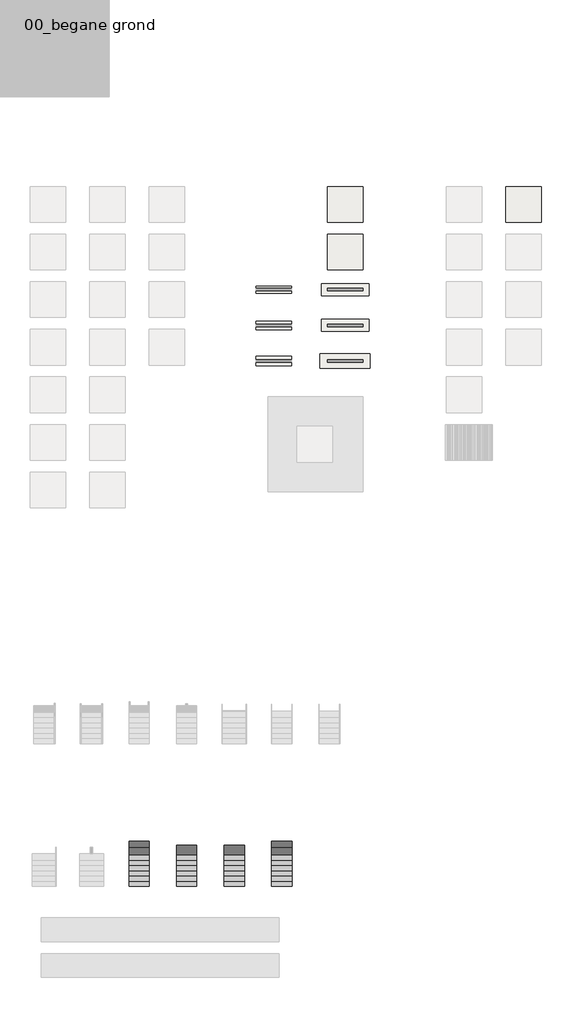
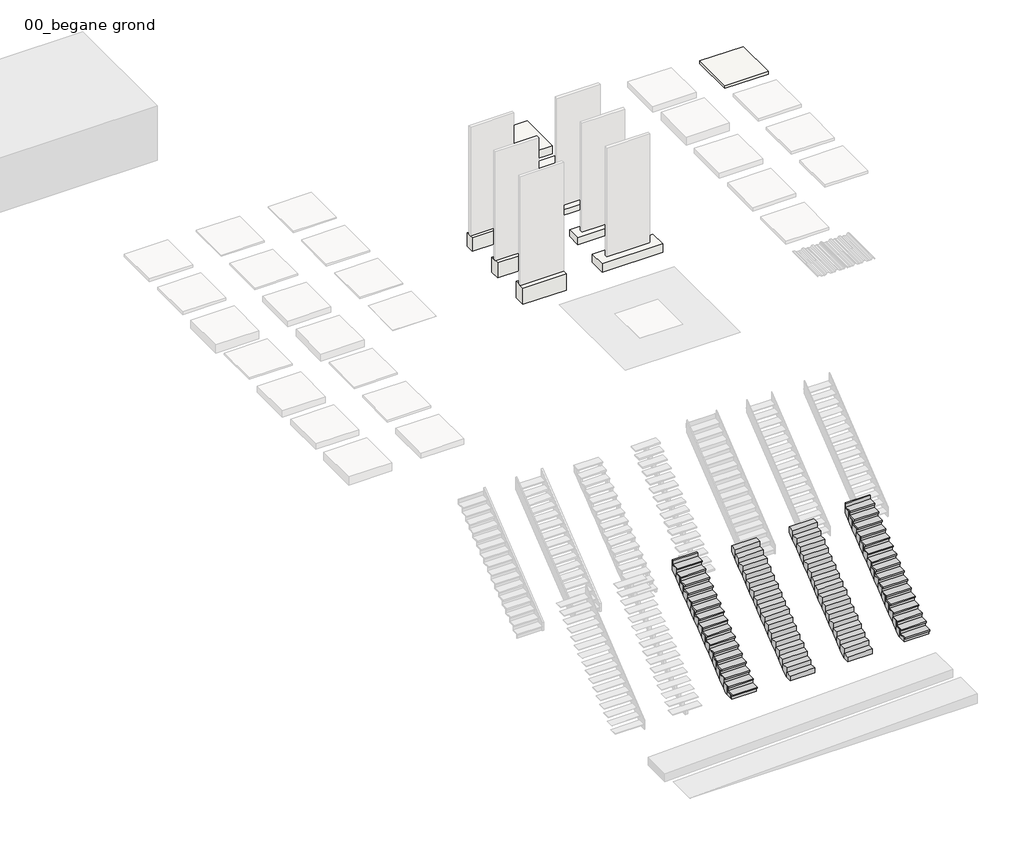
# One storey, part 2 of 3: 6 footings, 4 stair flights, 2 slabs, 1 roof.
"""IFC4 building model written with IfcOpenShell, lengths in millimetres."""

from ifc_helpers import new_model, si_unit, frame, origin, origin_with_axes, place, context, project, spatial, polyline, outline, extrude, faceted_brep, element, save

model = new_model("IFC4")

# Units and contexts
model_context = context("Model", 3, world=origin())
ifc_project = project(units=[si_unit("LENGTHUNIT", "METRE", prefix="MILLI")], contexts=[model_context])

# Site, building, storey
site = spatial("IfcSite", under=ifc_project)
building = spatial("IfcBuilding", under=site)
storey = spatial("IfcBuildingStorey", under=building, Name="00_begane grond", Elevation=0.0)

# Footings
placement = place(None, origin())
element("IfcFooting", 1, ObjectType="16_SFO_ihwg beton_C30-35_500x200", at=placement, inside=storey, context=model_context, shape_type="SweptSolid", body=[
    extrude(outline(polyline([(29439.8687149, -6498.9380074), (29439.8687149, -5998.9380074), (31439.8687149, -5998.9380074), (31439.8687149, -6498.9380074), (29439.8687149, -6498.9380074)])), frame((0.0, 0.0, -200.0), z_axis=(0.0, 0.0, 1.0), x_axis=(1.0, 0.0, 0.0)), (0.0, 0.0, 1.0), 200.0),
])
element("IfcFooting", 2, ObjectType="16_SFO_ihwg beton_C30-35_500x250", at=placement, inside=storey, context=model_context, shape_type="SweptSolid", body=[
    extrude(outline(polyline([(29439.8687149, -7998.9380074), (29439.8687149, -7498.9380074), (31439.8687149, -7498.9380074), (31439.8687149, -7998.9380074), (29439.8687149, -7998.9380074)])), frame((0.0, 0.0, -250.0), z_axis=(0.0, 0.0, 1.0), x_axis=(1.0, 0.0, 0.0)), (0.0, 0.0, 1.0), 250.0),
])
element("IfcFooting", 3, ObjectType="16_SFO_ihwg beton_C30-35_600x300", at=placement, inside=storey, context=model_context, shape_type="SweptSolid", body=[
    extrude(outline(polyline([(29389.8687149, -9548.9380074), (29389.8687149, -8948.9380074), (31489.8687149, -8948.9380074), (31489.8687149, -9548.9380074), (29389.8687149, -9548.9380074)])), frame((0.0, 0.0, -300.0), z_axis=(0.0, 0.0, 1.0), x_axis=(1.0, 0.0, 0.0)), (0.0, 0.0, 1.0), 300.0),
])
element("IfcFooting", 4, ObjectType="16_SFO_prefab beton_C35-45_300x500", at=placement, inside=storey, context=model_context, shape_type="SweptSolid", body=[
    extrude(outline(polyline([(26689.8687149, -6398.9380074), (26689.8687149, -6098.9380074), (28189.8687149, -6098.9380074), (28189.8687149, -6398.9380074), (26689.8687149, -6398.9380074)])), frame((0.0, 0.0, -500.0), z_axis=(0.0, 0.0, 1.0), x_axis=(1.0, 0.0, 0.0)), (0.0, 0.0, 1.0), 500.0),
])
element("IfcFooting", 5, ObjectType="16_SFO_prefab beton_C35-45_350x550", at=placement, inside=storey, context=model_context, shape_type="SweptSolid", body=[
    extrude(outline(polyline([(26689.8687149, -7923.9380074), (26689.8687149, -7573.9380074), (28189.8687149, -7573.9380074), (28189.8687149, -7923.9380074), (26689.8687149, -7923.9380074)])), frame((0.0, 0.0, -550.0), z_axis=(0.0, 0.0, 1.0), x_axis=(1.0, 0.0, 0.0)), (0.0, 0.0, 1.0), 550.0),
])
element("IfcFooting", 6, ObjectType="16_SFO_prefab beton_C35-45_400x600", at=placement, inside=storey, context=model_context, shape_type="SweptSolid", body=[
    extrude(outline(polyline([(26689.8687149, -9448.9380074), (26689.8687149, -9048.9380074), (28189.8687149, -9048.9380074), (28189.8687149, -9448.9380074), (26689.8687149, -9448.9380074)])), frame((0.0, 0.0, -600.0), z_axis=(0.0, 0.0, 1.0), x_axis=(1.0, 0.0, 0.0)), (0.0, 0.0, 1.0), 600.0),
])

# Roof
element("IfcRoof", 7, ObjectType="47_RO_isolatie_PIR_bitumen_82_80-2", at=placement, inside=storey, context=model_context, shape_type="SweptSolid", body=[
    extrude(outline(polyline([(37193.347385, -1915.0), (38693.347385, -1915.0), (38693.347385, -3415.0), (37193.347385, -3415.0), (37193.347385, -1915.0)])), origin_with_axes(), (0.0, 0.0, 1.0), 102.0),
])

# Slabs
element("IfcSlab", 8, ObjectType="16_SFO_funderingsplaat_beton_generiek_300", at=placement, inside=storey, context=model_context, shape_type="SweptSolid", body=[
    extrude(outline(polyline([(31193.347385, -1915.0), (31193.347385, -3415.0), (29693.347385, -3415.0), (29693.347385, -1915.0), (31193.347385, -1915.0)])), frame((0.0, 0.0, -300.0), z_axis=(0.0, 0.0, 1.0), x_axis=(1.0, 0.0, 0.0)), (0.0, 0.0, 1.0), 300.0),
])
element("IfcSlab", 9, ObjectType="16_SFO_funderingsplaat_ihwg_beton_C30/37", at=placement, inside=storey, context=model_context, shape_type="SweptSolid", body=[
    extrude(outline(polyline([(31193.347385, -3915.0), (31193.347385, -5415.0), (29693.347385, -5415.0), (29693.347385, -3915.0), (31193.347385, -3915.0)])), frame((0.0, 0.0, -300.0), z_axis=(0.0, 0.0, 1.0), x_axis=(1.0, 0.0, 0.0)), (0.0, 0.0, 1.0), 300.0),
])

# Stair flights
element("IfcStairFlight", 10, ObjectType="24_STR_trap_beton_prefab_monolithisch_recht", at=placement, inside=storey, context=model_context, shape_type="Brep", body=[
    faceted_brep([(23349.8089026, -31104.6322236, 176.4705882), (23349.8089026, -31324.6322236, 176.4705882), (24199.8089026, -31324.6322236, 176.4705882), (24199.8089026, -31104.6322236, 176.4705882), (23349.8089026, -31104.6322236, 0.0), (23349.8089026, -31324.6322236, 0.0), (24199.8089026, -31324.6322236, 0.0), (24199.8089026, -31104.6322236, 0.0), (23349.8089026, -30884.6322236, 352.9411765), (23349.8089026, -31104.6322236, 352.9411765), (24199.8089026, -31104.6322236, 352.9411765), (24199.8089026, -30884.6322236, 352.9411765), (23349.8089026, -30884.6322236, 160.6468492), (23349.8089026, -31084.9052956, 0.0), (24199.8089026, -31084.9052956, 0.0), (24199.8089026, -30884.6322236, 160.6468492), (23349.8089026, -30664.6322236, 529.4117647), (23349.8089026, -30884.6322236, 529.4117647), (24199.8089026, -30884.6322236, 529.4117647), (24199.8089026, -30664.6322236, 529.4117647), (23349.8089026, -30664.6322236, 337.1174374), (24199.8089026, -30664.6322236, 337.1174374), (23349.8089026, -30444.6322236, 705.8823529), (23349.8089026, -30664.6322236, 705.8823529), (24199.8089026, -30664.6322236, 705.8823529), (24199.8089026, -30444.6322236, 705.8823529), (23349.8089026, -30444.6322236, 513.5880257), (24199.8089026, -30444.6322236, 513.5880257), (23349.8089026, -30224.6322236, 882.3529412), (23349.8089026, -30444.6322236, 882.3529412), (24199.8089026, -30444.6322236, 882.3529412), (24199.8089026, -30224.6322236, 882.3529412), (23349.8089026, -30224.6322236, 690.0586139), (24199.8089026, -30224.6322236, 690.0586139), (23349.8089026, -30004.6322236, 1058.8235294), (23349.8089026, -30224.6322236, 1058.8235294), (24199.8089026, -30224.6322236, 1058.8235294), (24199.8089026, -30004.6322236, 1058.8235294), (23349.8089026, -30004.6322236, 866.5292022), (24199.8089026, -30004.6322236, 866.5292022), (23349.8089026, -29784.6322236, 1235.2941176), (23349.8089026, -30004.6322236, 1235.2941176), (24199.8089026, -30004.6322236, 1235.2941176), (24199.8089026, -29784.6322236, 1235.2941176), (23349.8089026, -29784.6322236, 1042.9997904), (24199.8089026, -29784.6322236, 1042.9997904), (23349.8089026, -29564.6322236, 1411.7647059), (23349.8089026, -29784.6322236, 1411.7647059), (24199.8089026, -29784.6322236, 1411.7647059), (24199.8089026, -29564.6322236, 1411.7647059), (23349.8089026, -29564.6322236, 1219.4703786), (24199.8089026, -29564.6322236, 1219.4703786), (23349.8089026, -29344.6322236, 1588.2352941), (23349.8089026, -29564.6322236, 1588.2352941), (24199.8089026, -29564.6322236, 1588.2352941), (24199.8089026, -29344.6322236, 1588.2352941), (23349.8089026, -29344.6322236, 1395.9409669), (24199.8089026, -29344.6322236, 1395.9409669), (23349.8089026, -29124.6322236, 1764.7058824), (23349.8089026, -29344.6322236, 1764.7058824), (24199.8089026, -29344.6322236, 1764.7058824), (24199.8089026, -29124.6322236, 1764.7058824), (23349.8089026, -29124.6322236, 1572.4115551), (24199.8089026, -29124.6322236, 1572.4115551), (23349.8089026, -28904.6322236, 1941.1764706), (23349.8089026, -29124.6322236, 1941.1764706), (24199.8089026, -29124.6322236, 1941.1764706), (24199.8089026, -28904.6322236, 1941.1764706), (23349.8089026, -28904.6322236, 1748.8821433), (24199.8089026, -28904.6322236, 1748.8821433), (23349.8089026, -28684.6322236, 2117.6470588), (23349.8089026, -28904.6322236, 2117.6470588), (24199.8089026, -28904.6322236, 2117.6470588), (24199.8089026, -28684.6322236, 2117.6470588), (23349.8089026, -28684.6322236, 1925.3527316), (24199.8089026, -28684.6322236, 1925.3527316), (23349.8089026, -28464.6322236, 2294.1176471), (23349.8089026, -28684.6322236, 2294.1176471), (24199.8089026, -28684.6322236, 2294.1176471), (24199.8089026, -28464.6322236, 2294.1176471), (23349.8089026, -28464.6322236, 2101.8233198), (24199.8089026, -28464.6322236, 2101.8233198), (23349.8089026, -28244.6322236, 2470.5882353), (23349.8089026, -28464.6322236, 2470.5882353), (24199.8089026, -28464.6322236, 2470.5882353), (24199.8089026, -28244.6322236, 2470.5882353), (23349.8089026, -28244.6322236, 2278.293908), (24199.8089026, -28244.6322236, 2278.293908), (23349.8089026, -28024.6322236, 2647.0588235), (23349.8089026, -28244.6322236, 2647.0588235), (24199.8089026, -28244.6322236, 2647.0588235), (24199.8089026, -28024.6322236, 2647.0588235), (23349.8089026, -28024.6322236, 2454.7644963), (24199.8089026, -28024.6322236, 2454.7644963), (23349.8089026, -27804.6322236, 2823.5294118), (23349.8089026, -28024.6322236, 2823.5294118), (24199.8089026, -28024.6322236, 2823.5294118), (24199.8089026, -27804.6322236, 2823.5294118), (23349.8089026, -27804.6322236, 2631.2350845), (24199.8089026, -27804.6322236, 2631.2350845)], [[[0, 1, 2, 3]], [[1, 0, 4, 5]], [[2, 1, 5, 6]], [[3, 2, 6, 7]], [[8, 9, 10, 11]], [[4, 0, 9, 8, 12, 13]], [[0, 3, 10, 9]], [[3, 7, 14, 15, 11, 10]], [[16, 17, 18, 19]], [[17, 16, 20, 12, 8]], [[8, 11, 18, 17]], [[19, 18, 11, 15, 21]], [[22, 23, 24, 25]], [[23, 22, 26, 20, 16]], [[16, 19, 24, 23]], [[25, 24, 19, 21, 27]], [[28, 29, 30, 31]], [[29, 28, 32, 26, 22]], [[22, 25, 30, 29]], [[31, 30, 25, 27, 33]], [[34, 35, 36, 37]], [[35, 34, 38, 32, 28]], [[28, 31, 36, 35]], [[37, 36, 31, 33, 39]], [[40, 41, 42, 43]], [[41, 40, 44, 38, 34]], [[34, 37, 42, 41]], [[43, 42, 37, 39, 45]], [[46, 47, 48, 49]], [[47, 46, 50, 44, 40]], [[40, 43, 48, 47]], [[49, 48, 43, 45, 51]], [[52, 53, 54, 55]], [[53, 52, 56, 50, 46]], [[46, 49, 54, 53]], [[55, 54, 49, 51, 57]], [[58, 59, 60, 61]], [[59, 58, 62, 56, 52]], [[52, 55, 60, 59]], [[61, 60, 55, 57, 63]], [[64, 65, 66, 67]], [[65, 64, 68, 62, 58]], [[58, 61, 66, 65]], [[67, 66, 61, 63, 69]], [[70, 71, 72, 73]], [[71, 70, 74, 68, 64]], [[64, 67, 72, 71]], [[73, 72, 67, 69, 75]], [[76, 77, 78, 79]], [[77, 76, 80, 74, 70]], [[70, 73, 78, 77]], [[79, 78, 73, 75, 81]], [[82, 83, 84, 85]], [[83, 82, 86, 80, 76]], [[76, 79, 84, 83]], [[85, 84, 79, 81, 87]], [[88, 89, 90, 91]], [[89, 88, 92, 86, 82]], [[82, 85, 90, 89]], [[91, 90, 85, 87, 93]], [[94, 95, 96, 97]], [[95, 94, 98, 92, 88]], [[88, 91, 96, 95]], [[97, 96, 91, 93, 99]], [[94, 97, 99, 98]], [[5, 4, 13, 14, 7, 6]], [[14, 13, 12, 20, 26, 32, 38, 44, 50, 56, 62, 68, 74, 80, 86, 92, 98, 99, 93, 87, 81, 75, 69, 63, 57, 51, 45, 39, 33, 27, 21, 15]]]),
])
element("IfcStairFlight", 11, ObjectType="24_STR_trap_beton_prefab_monolithisch_recht", at=placement, inside=storey, context=model_context, shape_type="Brep", body=[
    faceted_brep([(25349.8089026, -31104.6322236, 176.4705882), (25349.8089026, -31324.6322236, 176.4705882), (26199.8089026, -31324.6322236, 176.4705882), (26199.8089026, -31104.6322236, 176.4705882), (25349.8089026, -31104.6322236, 0.0), (25349.8089026, -31324.6322236, 0.0), (26199.8089026, -31324.6322236, 0.0), (26199.8089026, -31104.6322236, 0.0), (25349.8089026, -30884.6322236, 352.9411765), (25349.8089026, -31104.6322236, 352.9411765), (26199.8089026, -31104.6322236, 352.9411765), (26199.8089026, -30884.6322236, 352.9411765), (25349.8089026, -30884.6322236, 160.6468492), (25349.8089026, -31084.9052956, 0.0), (26199.8089026, -31084.9052956, 0.0), (26199.8089026, -30884.6322236, 160.6468492), (25349.8089026, -30664.6322236, 529.4117647), (25349.8089026, -30884.6322236, 529.4117647), (26199.8089026, -30884.6322236, 529.4117647), (26199.8089026, -30664.6322236, 529.4117647), (25349.8089026, -30664.6322236, 337.1174374), (26199.8089026, -30664.6322236, 337.1174374), (25349.8089026, -30444.6322236, 705.8823529), (25349.8089026, -30664.6322236, 705.8823529), (26199.8089026, -30664.6322236, 705.8823529), (26199.8089026, -30444.6322236, 705.8823529), (25349.8089026, -30444.6322236, 513.5880257), (26199.8089026, -30444.6322236, 513.5880257), (25349.8089026, -30224.6322236, 882.3529412), (25349.8089026, -30444.6322236, 882.3529412), (26199.8089026, -30444.6322236, 882.3529412), (26199.8089026, -30224.6322236, 882.3529412), (25349.8089026, -30224.6322236, 690.0586139), (26199.8089026, -30224.6322236, 690.0586139), (25349.8089026, -30004.6322236, 1058.8235294), (25349.8089026, -30224.6322236, 1058.8235294), (26199.8089026, -30224.6322236, 1058.8235294), (26199.8089026, -30004.6322236, 1058.8235294), (25349.8089026, -30004.6322236, 866.5292022), (26199.8089026, -30004.6322236, 866.5292022), (25349.8089026, -29784.6322236, 1235.2941176), (25349.8089026, -30004.6322236, 1235.2941176), (26199.8089026, -30004.6322236, 1235.2941176), (26199.8089026, -29784.6322236, 1235.2941176), (25349.8089026, -29784.6322236, 1042.9997904), (26199.8089026, -29784.6322236, 1042.9997904), (25349.8089026, -29564.6322236, 1411.7647059), (25349.8089026, -29784.6322236, 1411.7647059), (26199.8089026, -29784.6322236, 1411.7647059), (26199.8089026, -29564.6322236, 1411.7647059), (25349.8089026, -29564.6322236, 1219.4703786), (26199.8089026, -29564.6322236, 1219.4703786), (25349.8089026, -29344.6322236, 1588.2352941), (25349.8089026, -29564.6322236, 1588.2352941), (26199.8089026, -29564.6322236, 1588.2352941), (26199.8089026, -29344.6322236, 1588.2352941), (25349.8089026, -29344.6322236, 1395.9409669), (26199.8089026, -29344.6322236, 1395.9409669), (25349.8089026, -29124.6322236, 1764.7058824), (25349.8089026, -29344.6322236, 1764.7058824), (26199.8089026, -29344.6322236, 1764.7058824), (26199.8089026, -29124.6322236, 1764.7058824), (25349.8089026, -29124.6322236, 1572.4115551), (26199.8089026, -29124.6322236, 1572.4115551), (25349.8089026, -28904.6322236, 1941.1764706), (25349.8089026, -29124.6322236, 1941.1764706), (26199.8089026, -29124.6322236, 1941.1764706), (26199.8089026, -28904.6322236, 1941.1764706), (25349.8089026, -28904.6322236, 1748.8821433), (26199.8089026, -28904.6322236, 1748.8821433), (25349.8089026, -28684.6322236, 2117.6470588), (25349.8089026, -28904.6322236, 2117.6470588), (26199.8089026, -28904.6322236, 2117.6470588), (26199.8089026, -28684.6322236, 2117.6470588), (25349.8089026, -28684.6322236, 1925.3527316), (26199.8089026, -28684.6322236, 1925.3527316), (25349.8089026, -28464.6322236, 2294.1176471), (25349.8089026, -28684.6322236, 2294.1176471), (26199.8089026, -28684.6322236, 2294.1176471), (26199.8089026, -28464.6322236, 2294.1176471), (25349.8089026, -28464.6322236, 2101.8233198), (26199.8089026, -28464.6322236, 2101.8233198), (25349.8089026, -28244.6322236, 2470.5882353), (25349.8089026, -28464.6322236, 2470.5882353), (26199.8089026, -28464.6322236, 2470.5882353), (26199.8089026, -28244.6322236, 2470.5882353), (25349.8089026, -28244.6322236, 2278.293908), (26199.8089026, -28244.6322236, 2278.293908), (25349.8089026, -28024.6322236, 2647.0588235), (25349.8089026, -28244.6322236, 2647.0588235), (26199.8089026, -28244.6322236, 2647.0588235), (26199.8089026, -28024.6322236, 2647.0588235), (25349.8089026, -28024.6322236, 2454.7644963), (26199.8089026, -28024.6322236, 2454.7644963), (25349.8089026, -27804.6322236, 2823.5294118), (25349.8089026, -28024.6322236, 2823.5294118), (26199.8089026, -28024.6322236, 2823.5294118), (26199.8089026, -27804.6322236, 2823.5294118), (25349.8089026, -27804.6322236, 2631.2350845), (26199.8089026, -27804.6322236, 2631.2350845)], [[[0, 1, 2, 3]], [[1, 0, 4, 5]], [[2, 1, 5, 6]], [[3, 2, 6, 7]], [[8, 9, 10, 11]], [[4, 0, 9, 8, 12, 13]], [[0, 3, 10, 9]], [[3, 7, 14, 15, 11, 10]], [[16, 17, 18, 19]], [[17, 16, 20, 12, 8]], [[8, 11, 18, 17]], [[19, 18, 11, 15, 21]], [[22, 23, 24, 25]], [[23, 22, 26, 20, 16]], [[16, 19, 24, 23]], [[25, 24, 19, 21, 27]], [[28, 29, 30, 31]], [[29, 28, 32, 26, 22]], [[22, 25, 30, 29]], [[31, 30, 25, 27, 33]], [[34, 35, 36, 37]], [[35, 34, 38, 32, 28]], [[28, 31, 36, 35]], [[37, 36, 31, 33, 39]], [[40, 41, 42, 43]], [[41, 40, 44, 38, 34]], [[34, 37, 42, 41]], [[43, 42, 37, 39, 45]], [[46, 47, 48, 49]], [[47, 46, 50, 44, 40]], [[40, 43, 48, 47]], [[49, 48, 43, 45, 51]], [[52, 53, 54, 55]], [[53, 52, 56, 50, 46]], [[46, 49, 54, 53]], [[55, 54, 49, 51, 57]], [[58, 59, 60, 61]], [[59, 58, 62, 56, 52]], [[52, 55, 60, 59]], [[61, 60, 55, 57, 63]], [[64, 65, 66, 67]], [[65, 64, 68, 62, 58]], [[58, 61, 66, 65]], [[67, 66, 61, 63, 69]], [[70, 71, 72, 73]], [[71, 70, 74, 68, 64]], [[64, 67, 72, 71]], [[73, 72, 67, 69, 75]], [[76, 77, 78, 79]], [[77, 76, 80, 74, 70]], [[70, 73, 78, 77]], [[79, 78, 73, 75, 81]], [[82, 83, 84, 85]], [[83, 82, 86, 80, 76]], [[76, 79, 84, 83]], [[85, 84, 79, 81, 87]], [[88, 89, 90, 91]], [[89, 88, 92, 86, 82]], [[82, 85, 90, 89]], [[91, 90, 85, 87, 93]], [[94, 95, 96, 97]], [[95, 94, 98, 92, 88]], [[88, 91, 96, 95]], [[97, 96, 91, 93, 99]], [[94, 97, 99, 98]], [[5, 4, 13, 14, 7, 6]], [[14, 13, 12, 20, 26, 32, 38, 44, 50, 56, 62, 68, 74, 80, 86, 92, 98, 99, 93, 87, 81, 75, 69, 63, 57, 51, 45, 39, 33, 27, 21, 15]]]),
])
element("IfcStairFlight", 12, ObjectType="24_STR_trap_beton_prefab_50_50_50", at=placement, inside=storey, context=model_context, shape_type="SolidModel", body=[
    faceted_brep([(21349.8089026, -31004.6322236, 126.4705882), (21349.8089026, -31224.6322236, 126.4705882), (22199.8089026, -31224.6322236, 126.4705882), (22199.8089026, -31004.6322236, 126.4705882), (21349.8089026, -31004.6322236, 0.0), (21349.8089026, -31224.6322236, 0.0), (22199.8089026, -31224.6322236, 0.0), (22199.8089026, -31004.6322236, 0.0), (21349.8089026, -30784.6322236, 302.9411765), (21349.8089026, -31004.6322236, 302.9411765), (22199.8089026, -31004.6322236, 302.9411765), (22199.8089026, -30784.6322236, 302.9411765), (21349.8089026, -30784.6322236, 110.6468492), (21349.8089026, -30922.5719622, 0.0), (22199.8089026, -30922.5719622, 0.0), (22199.8089026, -30784.6322236, 110.6468492), (21349.8089026, -30564.6322236, 479.4117647), (21349.8089026, -30784.6322236, 479.4117647), (22199.8089026, -30784.6322236, 479.4117647), (22199.8089026, -30564.6322236, 479.4117647), (21349.8089026, -30564.6322236, 287.1174374), (22199.8089026, -30564.6322236, 287.1174374), (21349.8089026, -30344.6322236, 655.8823529), (21349.8089026, -30564.6322236, 655.8823529), (22199.8089026, -30564.6322236, 655.8823529), (22199.8089026, -30344.6322236, 655.8823529), (21349.8089026, -30344.6322236, 463.5880257), (22199.8089026, -30344.6322236, 463.5880257), (21349.8089026, -30124.6322236, 832.3529412), (21349.8089026, -30344.6322236, 832.3529412), (22199.8089026, -30344.6322236, 832.3529412), (22199.8089026, -30124.6322236, 832.3529412), (21349.8089026, -30124.6322236, 640.0586139), (22199.8089026, -30124.6322236, 640.0586139), (21349.8089026, -29904.6322236, 1008.8235294), (21349.8089026, -30124.6322236, 1008.8235294), (22199.8089026, -30124.6322236, 1008.8235294), (22199.8089026, -29904.6322236, 1008.8235294), (21349.8089026, -29904.6322236, 816.5292022), (22199.8089026, -29904.6322236, 816.5292022), (21349.8089026, -29684.6322236, 1185.2941176), (21349.8089026, -29904.6322236, 1185.2941176), (22199.8089026, -29904.6322236, 1185.2941176), (22199.8089026, -29684.6322236, 1185.2941176), (21349.8089026, -29684.6322236, 992.9997904), (22199.8089026, -29684.6322236, 992.9997904), (21349.8089026, -29464.6322236, 1361.7647059), (21349.8089026, -29684.6322236, 1361.7647059), (22199.8089026, -29684.6322236, 1361.7647059), (22199.8089026, -29464.6322236, 1361.7647059), (21349.8089026, -29464.6322236, 1169.4703786), (22199.8089026, -29464.6322236, 1169.4703786), (21349.8089026, -29244.6322236, 1538.2352941), (21349.8089026, -29464.6322236, 1538.2352941), (22199.8089026, -29464.6322236, 1538.2352941), (22199.8089026, -29244.6322236, 1538.2352941), (21349.8089026, -29244.6322236, 1345.9409669), (22199.8089026, -29244.6322236, 1345.9409669), (21349.8089026, -29024.6322236, 1714.7058824), (21349.8089026, -29244.6322236, 1714.7058824), (22199.8089026, -29244.6322236, 1714.7058824), (22199.8089026, -29024.6322236, 1714.7058824), (21349.8089026, -29024.6322236, 1522.4115551), (22199.8089026, -29024.6322236, 1522.4115551), (21349.8089026, -28804.6322236, 1891.1764706), (21349.8089026, -29024.6322236, 1891.1764706), (22199.8089026, -29024.6322236, 1891.1764706), (22199.8089026, -28804.6322236, 1891.1764706), (21349.8089026, -28804.6322236, 1698.8821433), (22199.8089026, -28804.6322236, 1698.8821433), (21349.8089026, -28584.6322236, 2067.6470588), (21349.8089026, -28804.6322236, 2067.6470588), (22199.8089026, -28804.6322236, 2067.6470588), (22199.8089026, -28584.6322236, 2067.6470588), (21349.8089026, -28584.6322236, 1875.3527316), (22199.8089026, -28584.6322236, 1875.3527316), (21349.8089026, -28364.6322236, 2244.1176471), (21349.8089026, -28584.6322236, 2244.1176471), (22199.8089026, -28584.6322236, 2244.1176471), (22199.8089026, -28364.6322236, 2244.1176471), (21349.8089026, -28364.6322236, 2051.8233198), (22199.8089026, -28364.6322236, 2051.8233198), (21349.8089026, -28144.6322236, 2420.5882353), (21349.8089026, -28364.6322236, 2420.5882353), (22199.8089026, -28364.6322236, 2420.5882353), (22199.8089026, -28144.6322236, 2420.5882353), (21349.8089026, -28144.6322236, 2228.293908), (22199.8089026, -28144.6322236, 2228.293908), (21349.8089026, -27924.6322236, 2597.0588235), (21349.8089026, -28144.6322236, 2597.0588235), (22199.8089026, -28144.6322236, 2597.0588235), (22199.8089026, -27924.6322236, 2597.0588235), (21349.8089026, -27924.6322236, 2404.7644963), (22199.8089026, -27924.6322236, 2404.7644963), (21349.8089026, -27704.6322236, 2773.5294118), (21349.8089026, -27924.6322236, 2773.5294118), (22199.8089026, -27924.6322236, 2773.5294118), (22199.8089026, -27704.6322236, 2773.5294118), (21349.8089026, -27704.6322236, 2581.2350845), (22199.8089026, -27704.6322236, 2581.2350845)], [[[0, 1, 2, 3]], [[1, 0, 4, 5]], [[2, 1, 5, 6]], [[3, 2, 6, 7]], [[8, 9, 10, 11]], [[4, 0, 9, 8, 12, 13]], [[0, 3, 10, 9]], [[3, 7, 14, 15, 11, 10]], [[16, 17, 18, 19]], [[17, 16, 20, 12, 8]], [[8, 11, 18, 17]], [[19, 18, 11, 15, 21]], [[22, 23, 24, 25]], [[23, 22, 26, 20, 16]], [[16, 19, 24, 23]], [[25, 24, 19, 21, 27]], [[28, 29, 30, 31]], [[29, 28, 32, 26, 22]], [[22, 25, 30, 29]], [[31, 30, 25, 27, 33]], [[34, 35, 36, 37]], [[35, 34, 38, 32, 28]], [[28, 31, 36, 35]], [[37, 36, 31, 33, 39]], [[40, 41, 42, 43]], [[41, 40, 44, 38, 34]], [[34, 37, 42, 41]], [[43, 42, 37, 39, 45]], [[46, 47, 48, 49]], [[47, 46, 50, 44, 40]], [[40, 43, 48, 47]], [[49, 48, 43, 45, 51]], [[52, 53, 54, 55]], [[53, 52, 56, 50, 46]], [[46, 49, 54, 53]], [[55, 54, 49, 51, 57]], [[58, 59, 60, 61]], [[59, 58, 62, 56, 52]], [[52, 55, 60, 59]], [[61, 60, 55, 57, 63]], [[64, 65, 66, 67]], [[65, 64, 68, 62, 58]], [[58, 61, 66, 65]], [[67, 66, 61, 63, 69]], [[70, 71, 72, 73]], [[71, 70, 74, 68, 64]], [[64, 67, 72, 71]], [[73, 72, 67, 69, 75]], [[76, 77, 78, 79]], [[77, 76, 80, 74, 70]], [[70, 73, 78, 77]], [[79, 78, 73, 75, 81]], [[82, 83, 84, 85]], [[83, 82, 86, 80, 76]], [[76, 79, 84, 83]], [[85, 84, 79, 81, 87]], [[88, 89, 90, 91]], [[89, 88, 92, 86, 82]], [[82, 85, 90, 89]], [[91, 90, 85, 87, 93]], [[94, 95, 96, 97]], [[95, 94, 98, 92, 88]], [[88, 91, 96, 95]], [[97, 96, 91, 93, 99]], [[94, 97, 99, 98]], [[5, 4, 13, 14, 7, 6]], [[14, 13, 12, 20, 26, 32, 38, 44, 50, 56, 62, 68, 74, 80, 86, 92, 98, 99, 93, 87, 81, 75, 69, 63, 57, 51, 45, 39, 33, 27, 21, 15]]]),
    extrude(outline(polyline([(-31274.6322236, 0.0), (-31274.6322236, 126.4705882), (-31324.6322236, 126.4705882), (-31324.6322236, 176.4705882), (-31054.6322236, 176.4705882), (-31054.6322236, 302.9411765), (-31104.6322236, 302.9411765), (-31104.6322236, 352.9411765), (-30834.6322236, 352.9411765), (-30834.6322236, 479.4117647), (-30884.6322236, 479.4117647), (-30884.6322236, 529.4117647), (-30614.6322236, 529.4117647), (-30614.6322236, 655.8823529), (-30664.6322236, 655.8823529), (-30664.6322236, 705.8823529), (-30394.6322236, 705.8823529), (-30394.6322236, 832.3529412), (-30444.6322236, 832.3529412), (-30444.6322236, 882.3529412), (-30174.6322236, 882.3529412), (-30174.6322236, 1008.8235294), (-30224.6322236, 1008.8235294), (-30224.6322236, 1058.8235294), (-29954.6322236, 1058.8235294), (-29954.6322236, 1185.2941176), (-30004.6322236, 1185.2941176), (-30004.6322236, 1235.2941176), (-29734.6322236, 1235.2941176), (-29734.6322236, 1361.7647059), (-29784.6322236, 1361.7647059), (-29784.6322236, 1411.7647059), (-29514.6322236, 1411.7647059), (-29514.6322236, 1538.2352941), (-29564.6322236, 1538.2352941), (-29564.6322236, 1588.2352941), (-29294.6322236, 1588.2352941), (-29294.6322236, 1714.7058824), (-29344.6322236, 1714.7058824), (-29344.6322236, 1764.7058824), (-29074.6322236, 1764.7058824), (-29074.6322236, 1891.1764706), (-29124.6322236, 1891.1764706), (-29124.6322236, 1941.1764706), (-28854.6322236, 1941.1764706), (-28854.6322236, 2067.6470588), (-28904.6322236, 2067.6470588), (-28904.6322236, 2117.6470588), (-28634.6322236, 2117.6470588), (-28634.6322236, 2244.1176471), (-28684.6322236, 2244.1176471), (-28684.6322236, 2294.1176471), (-28414.6322236, 2294.1176471), (-28414.6322236, 2420.5882353), (-28464.6322236, 2420.5882353), (-28464.6322236, 2470.5882353), (-28194.6322236, 2470.5882353), (-28194.6322236, 2597.0588235), (-28244.6322236, 2597.0588235), (-28244.6322236, 2647.0588235), (-27974.6322236, 2647.0588235), (-27974.6322236, 2773.5294118), (-28024.6322236, 2773.5294118), (-28024.6322236, 2823.5294118), (-27754.6322236, 2823.5294118), (-27754.6322236, 2950.0), (-27704.6322236, 2950.0), (-27704.6322236, 2773.5294118), (-27924.6322236, 2773.5294118), (-27924.6322236, 2597.0588235), (-28144.6322236, 2597.0588235), (-28144.6322236, 2420.5882353), (-28364.6322236, 2420.5882353), (-28364.6322236, 2244.1176471), (-28584.6322236, 2244.1176471), (-28584.6322236, 2067.6470588), (-28804.6322236, 2067.6470588), (-28804.6322236, 1891.1764706), (-29024.6322236, 1891.1764706), (-29024.6322236, 1714.7058824), (-29244.6322236, 1714.7058824), (-29244.6322236, 1538.2352941), (-29464.6322236, 1538.2352941), (-29464.6322236, 1361.7647059), (-29684.6322236, 1361.7647059), (-29684.6322236, 1185.2941176), (-29904.6322236, 1185.2941176), (-29904.6322236, 1008.8235294), (-30124.6322236, 1008.8235294), (-30124.6322236, 832.3529412), (-30344.6322236, 832.3529412), (-30344.6322236, 655.8823529), (-30564.6322236, 655.8823529), (-30564.6322236, 479.4117647), (-30784.6322236, 479.4117647), (-30784.6322236, 302.9411765), (-31004.6322236, 302.9411765), (-31004.6322236, 126.4705882), (-31224.6322236, 126.4705882), (-31224.6322236, 0.0), (-31274.6322236, 0.0)])), frame((21349.8089026, 0.0, 0.0), z_axis=(1.0, 0.0, 0.0), x_axis=(0.0, 1.0, 0.0)), (0.0, 0.0, 1.0), 850.0),
])
element("IfcStairFlight", 13, ObjectType="24_STR_trap_beton_prefab_50_50_50", at=placement, inside=storey, context=model_context, shape_type="SolidModel", body=[
    faceted_brep([(27349.8089026, -31004.6322236, 126.4705882), (27349.8089026, -31224.6322236, 126.4705882), (28199.8089026, -31224.6322236, 126.4705882), (28199.8089026, -31004.6322236, 126.4705882), (27349.8089026, -31004.6322236, 0.0), (27349.8089026, -31224.6322236, 0.0), (28199.8089026, -31224.6322236, 0.0), (28199.8089026, -31004.6322236, 0.0), (27349.8089026, -30784.6322236, 302.9411765), (27349.8089026, -31004.6322236, 302.9411765), (28199.8089026, -31004.6322236, 302.9411765), (28199.8089026, -30784.6322236, 302.9411765), (27349.8089026, -30784.6322236, 110.6468492), (27349.8089026, -30922.5719622, 0.0), (28199.8089026, -30922.5719622, 0.0), (28199.8089026, -30784.6322236, 110.6468492), (27349.8089026, -30564.6322236, 479.4117647), (27349.8089026, -30784.6322236, 479.4117647), (28199.8089026, -30784.6322236, 479.4117647), (28199.8089026, -30564.6322236, 479.4117647), (27349.8089026, -30564.6322236, 287.1174374), (28199.8089026, -30564.6322236, 287.1174374), (27349.8089026, -30344.6322236, 655.8823529), (27349.8089026, -30564.6322236, 655.8823529), (28199.8089026, -30564.6322236, 655.8823529), (28199.8089026, -30344.6322236, 655.8823529), (27349.8089026, -30344.6322236, 463.5880257), (28199.8089026, -30344.6322236, 463.5880257), (27349.8089026, -30124.6322236, 832.3529412), (27349.8089026, -30344.6322236, 832.3529412), (28199.8089026, -30344.6322236, 832.3529412), (28199.8089026, -30124.6322236, 832.3529412), (27349.8089026, -30124.6322236, 640.0586139), (28199.8089026, -30124.6322236, 640.0586139), (27349.8089026, -29904.6322236, 1008.8235294), (27349.8089026, -30124.6322236, 1008.8235294), (28199.8089026, -30124.6322236, 1008.8235294), (28199.8089026, -29904.6322236, 1008.8235294), (27349.8089026, -29904.6322236, 816.5292022), (28199.8089026, -29904.6322236, 816.5292022), (27349.8089026, -29684.6322236, 1185.2941176), (27349.8089026, -29904.6322236, 1185.2941176), (28199.8089026, -29904.6322236, 1185.2941176), (28199.8089026, -29684.6322236, 1185.2941176), (27349.8089026, -29684.6322236, 992.9997904), (28199.8089026, -29684.6322236, 992.9997904), (27349.8089026, -29464.6322236, 1361.7647059), (27349.8089026, -29684.6322236, 1361.7647059), (28199.8089026, -29684.6322236, 1361.7647059), (28199.8089026, -29464.6322236, 1361.7647059), (27349.8089026, -29464.6322236, 1169.4703786), (28199.8089026, -29464.6322236, 1169.4703786), (27349.8089026, -29244.6322236, 1538.2352941), (27349.8089026, -29464.6322236, 1538.2352941), (28199.8089026, -29464.6322236, 1538.2352941), (28199.8089026, -29244.6322236, 1538.2352941), (27349.8089026, -29244.6322236, 1345.9409669), (28199.8089026, -29244.6322236, 1345.9409669), (27349.8089026, -29024.6322236, 1714.7058824), (27349.8089026, -29244.6322236, 1714.7058824), (28199.8089026, -29244.6322236, 1714.7058824), (28199.8089026, -29024.6322236, 1714.7058824), (27349.8089026, -29024.6322236, 1522.4115551), (28199.8089026, -29024.6322236, 1522.4115551), (27349.8089026, -28804.6322236, 1891.1764706), (27349.8089026, -29024.6322236, 1891.1764706), (28199.8089026, -29024.6322236, 1891.1764706), (28199.8089026, -28804.6322236, 1891.1764706), (27349.8089026, -28804.6322236, 1698.8821433), (28199.8089026, -28804.6322236, 1698.8821433), (27349.8089026, -28584.6322236, 2067.6470588), (27349.8089026, -28804.6322236, 2067.6470588), (28199.8089026, -28804.6322236, 2067.6470588), (28199.8089026, -28584.6322236, 2067.6470588), (27349.8089026, -28584.6322236, 1875.3527316), (28199.8089026, -28584.6322236, 1875.3527316), (27349.8089026, -28364.6322236, 2244.1176471), (27349.8089026, -28584.6322236, 2244.1176471), (28199.8089026, -28584.6322236, 2244.1176471), (28199.8089026, -28364.6322236, 2244.1176471), (27349.8089026, -28364.6322236, 2051.8233198), (28199.8089026, -28364.6322236, 2051.8233198), (27349.8089026, -28144.6322236, 2420.5882353), (27349.8089026, -28364.6322236, 2420.5882353), (28199.8089026, -28364.6322236, 2420.5882353), (28199.8089026, -28144.6322236, 2420.5882353), (27349.8089026, -28144.6322236, 2228.293908), (28199.8089026, -28144.6322236, 2228.293908), (27349.8089026, -27924.6322236, 2597.0588235), (27349.8089026, -28144.6322236, 2597.0588235), (28199.8089026, -28144.6322236, 2597.0588235), (28199.8089026, -27924.6322236, 2597.0588235), (27349.8089026, -27924.6322236, 2404.7644963), (28199.8089026, -27924.6322236, 2404.7644963), (27349.8089026, -27704.6322236, 2773.5294118), (27349.8089026, -27924.6322236, 2773.5294118), (28199.8089026, -27924.6322236, 2773.5294118), (28199.8089026, -27704.6322236, 2773.5294118), (27349.8089026, -27704.6322236, 2581.2350845), (28199.8089026, -27704.6322236, 2581.2350845)], [[[0, 1, 2, 3]], [[1, 0, 4, 5]], [[2, 1, 5, 6]], [[3, 2, 6, 7]], [[8, 9, 10, 11]], [[4, 0, 9, 8, 12, 13]], [[0, 3, 10, 9]], [[3, 7, 14, 15, 11, 10]], [[16, 17, 18, 19]], [[17, 16, 20, 12, 8]], [[8, 11, 18, 17]], [[19, 18, 11, 15, 21]], [[22, 23, 24, 25]], [[23, 22, 26, 20, 16]], [[16, 19, 24, 23]], [[25, 24, 19, 21, 27]], [[28, 29, 30, 31]], [[29, 28, 32, 26, 22]], [[22, 25, 30, 29]], [[31, 30, 25, 27, 33]], [[34, 35, 36, 37]], [[35, 34, 38, 32, 28]], [[28, 31, 36, 35]], [[37, 36, 31, 33, 39]], [[40, 41, 42, 43]], [[41, 40, 44, 38, 34]], [[34, 37, 42, 41]], [[43, 42, 37, 39, 45]], [[46, 47, 48, 49]], [[47, 46, 50, 44, 40]], [[40, 43, 48, 47]], [[49, 48, 43, 45, 51]], [[52, 53, 54, 55]], [[53, 52, 56, 50, 46]], [[46, 49, 54, 53]], [[55, 54, 49, 51, 57]], [[58, 59, 60, 61]], [[59, 58, 62, 56, 52]], [[52, 55, 60, 59]], [[61, 60, 55, 57, 63]], [[64, 65, 66, 67]], [[65, 64, 68, 62, 58]], [[58, 61, 66, 65]], [[67, 66, 61, 63, 69]], [[70, 71, 72, 73]], [[71, 70, 74, 68, 64]], [[64, 67, 72, 71]], [[73, 72, 67, 69, 75]], [[76, 77, 78, 79]], [[77, 76, 80, 74, 70]], [[70, 73, 78, 77]], [[79, 78, 73, 75, 81]], [[82, 83, 84, 85]], [[83, 82, 86, 80, 76]], [[76, 79, 84, 83]], [[85, 84, 79, 81, 87]], [[88, 89, 90, 91]], [[89, 88, 92, 86, 82]], [[82, 85, 90, 89]], [[91, 90, 85, 87, 93]], [[94, 95, 96, 97]], [[95, 94, 98, 92, 88]], [[88, 91, 96, 95]], [[97, 96, 91, 93, 99]], [[94, 97, 99, 98]], [[5, 4, 13, 14, 7, 6]], [[14, 13, 12, 20, 26, 32, 38, 44, 50, 56, 62, 68, 74, 80, 86, 92, 98, 99, 93, 87, 81, 75, 69, 63, 57, 51, 45, 39, 33, 27, 21, 15]]]),
    extrude(outline(polyline([(-31274.6322236, 0.0), (-31274.6322236, 126.4705882), (-31324.6322236, 126.4705882), (-31324.6322236, 176.4705882), (-31054.6322236, 176.4705882), (-31054.6322236, 302.9411765), (-31104.6322236, 302.9411765), (-31104.6322236, 352.9411765), (-30834.6322236, 352.9411765), (-30834.6322236, 479.4117647), (-30884.6322236, 479.4117647), (-30884.6322236, 529.4117647), (-30614.6322236, 529.4117647), (-30614.6322236, 655.8823529), (-30664.6322236, 655.8823529), (-30664.6322236, 705.8823529), (-30394.6322236, 705.8823529), (-30394.6322236, 832.3529412), (-30444.6322236, 832.3529412), (-30444.6322236, 882.3529412), (-30174.6322236, 882.3529412), (-30174.6322236, 1008.8235294), (-30224.6322236, 1008.8235294), (-30224.6322236, 1058.8235294), (-29954.6322236, 1058.8235294), (-29954.6322236, 1185.2941176), (-30004.6322236, 1185.2941176), (-30004.6322236, 1235.2941176), (-29734.6322236, 1235.2941176), (-29734.6322236, 1361.7647059), (-29784.6322236, 1361.7647059), (-29784.6322236, 1411.7647059), (-29514.6322236, 1411.7647059), (-29514.6322236, 1538.2352941), (-29564.6322236, 1538.2352941), (-29564.6322236, 1588.2352941), (-29294.6322236, 1588.2352941), (-29294.6322236, 1714.7058824), (-29344.6322236, 1714.7058824), (-29344.6322236, 1764.7058824), (-29074.6322236, 1764.7058824), (-29074.6322236, 1891.1764706), (-29124.6322236, 1891.1764706), (-29124.6322236, 1941.1764706), (-28854.6322236, 1941.1764706), (-28854.6322236, 2067.6470588), (-28904.6322236, 2067.6470588), (-28904.6322236, 2117.6470588), (-28634.6322236, 2117.6470588), (-28634.6322236, 2244.1176471), (-28684.6322236, 2244.1176471), (-28684.6322236, 2294.1176471), (-28414.6322236, 2294.1176471), (-28414.6322236, 2420.5882353), (-28464.6322236, 2420.5882353), (-28464.6322236, 2470.5882353), (-28194.6322236, 2470.5882353), (-28194.6322236, 2597.0588235), (-28244.6322236, 2597.0588235), (-28244.6322236, 2647.0588235), (-27974.6322236, 2647.0588235), (-27974.6322236, 2773.5294118), (-28024.6322236, 2773.5294118), (-28024.6322236, 2823.5294118), (-27754.6322236, 2823.5294118), (-27754.6322236, 2950.0), (-27704.6322236, 2950.0), (-27704.6322236, 2773.5294118), (-27924.6322236, 2773.5294118), (-27924.6322236, 2597.0588235), (-28144.6322236, 2597.0588235), (-28144.6322236, 2420.5882353), (-28364.6322236, 2420.5882353), (-28364.6322236, 2244.1176471), (-28584.6322236, 2244.1176471), (-28584.6322236, 2067.6470588), (-28804.6322236, 2067.6470588), (-28804.6322236, 1891.1764706), (-29024.6322236, 1891.1764706), (-29024.6322236, 1714.7058824), (-29244.6322236, 1714.7058824), (-29244.6322236, 1538.2352941), (-29464.6322236, 1538.2352941), (-29464.6322236, 1361.7647059), (-29684.6322236, 1361.7647059), (-29684.6322236, 1185.2941176), (-29904.6322236, 1185.2941176), (-29904.6322236, 1008.8235294), (-30124.6322236, 1008.8235294), (-30124.6322236, 832.3529412), (-30344.6322236, 832.3529412), (-30344.6322236, 655.8823529), (-30564.6322236, 655.8823529), (-30564.6322236, 479.4117647), (-30784.6322236, 479.4117647), (-30784.6322236, 302.9411765), (-31004.6322236, 302.9411765), (-31004.6322236, 126.4705882), (-31224.6322236, 126.4705882), (-31224.6322236, 0.0), (-31274.6322236, 0.0)])), frame((27349.8089026, 0.0, 0.0), z_axis=(1.0, 0.0, 0.0), x_axis=(0.0, 1.0, 0.0)), (0.0, 0.0, 1.0), 850.0),
])

save(model, "model.ifc")
